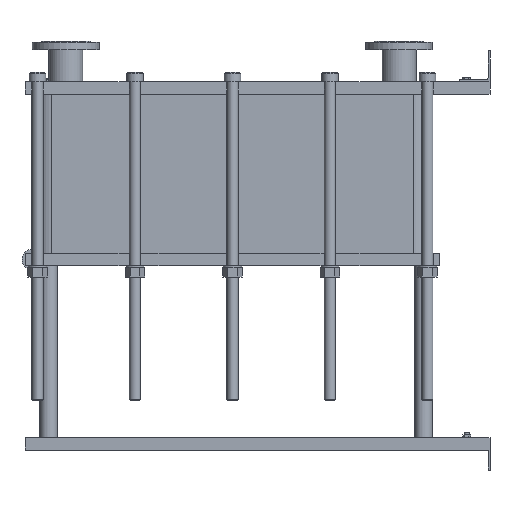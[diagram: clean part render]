
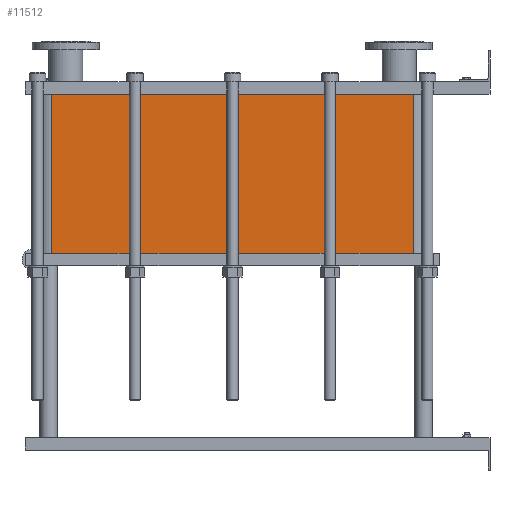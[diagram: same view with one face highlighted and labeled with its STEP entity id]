
A CAD part, left-side view. The second image highlights one B-rep face of the part: STEP entity #11512.
In plain terms, the highlighted planar face has unit normal (-1, 0, 0).
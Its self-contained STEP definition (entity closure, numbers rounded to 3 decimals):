
#1129=LINE('',#23232,#2102);
#1130=LINE('',#23236,#2103);
#1131=LINE('',#23238,#2104);
#1132=LINE('',#23239,#2105);
#2102=VECTOR('',#15887,10.);
#2103=VECTOR('',#15892,10.);
#2104=VECTOR('',#15893,10.);
#2105=VECTOR('',#15894,10.);
#3267=FACE_OUTER_BOUND('',#4093,.T.);
#4093=EDGE_LOOP('',(#10103,#10104,#10105,#10106));
#5642=VERTEX_POINT('',#23229);
#5643=VERTEX_POINT('',#23231);
#5644=VERTEX_POINT('',#23235);
#5645=VERTEX_POINT('',#23237);
#7159=EDGE_CURVE('',#5643,#5642,#1129,.T.);
#7161=EDGE_CURVE('',#5642,#5644,#1130,.T.);
#7162=EDGE_CURVE('',#5645,#5644,#1131,.T.);
#7163=EDGE_CURVE('',#5645,#5643,#1132,.T.);
#10103=ORIENTED_EDGE('',*,*,#7161,.T.);
#10104=ORIENTED_EDGE('',*,*,#7162,.F.);
#10105=ORIENTED_EDGE('',*,*,#7163,.T.);
#10106=ORIENTED_EDGE('',*,*,#7159,.T.);
#10857=PLANE('',#12751);
#11512=ADVANCED_FACE('',(#3267),#10857,.T.);
#12751=AXIS2_PLACEMENT_3D('',#23234,#15890,#15891);
#15887=DIRECTION('',(0.,0.,-1.));
#15890=DIRECTION('center_axis',(-1.,0.,0.));
#15891=DIRECTION('ref_axis',(0.,1.,0.));
#15892=DIRECTION('',(0.,-1.,0.));
#15893=DIRECTION('',(0.,0.,-1.));
#15894=DIRECTION('',(0.,1.,0.));
#23229=CARTESIAN_POINT('',(-200.,1414.,-514.05));
#23231=CARTESIAN_POINT('',(-200.,1414.,0.));
#23232=CARTESIAN_POINT('',(-200.,1414.,0.));
#23234=CARTESIAN_POINT('Origin',(-200.,248.,0.));
#23235=CARTESIAN_POINT('',(-200.,248.,-514.05));
#23236=CARTESIAN_POINT('',(-200.,539.5,-514.05));
#23237=CARTESIAN_POINT('',(-200.,248.,0.));
#23238=CARTESIAN_POINT('',(-200.,248.,0.));
#23239=CARTESIAN_POINT('',(-200.,248.,0.));
